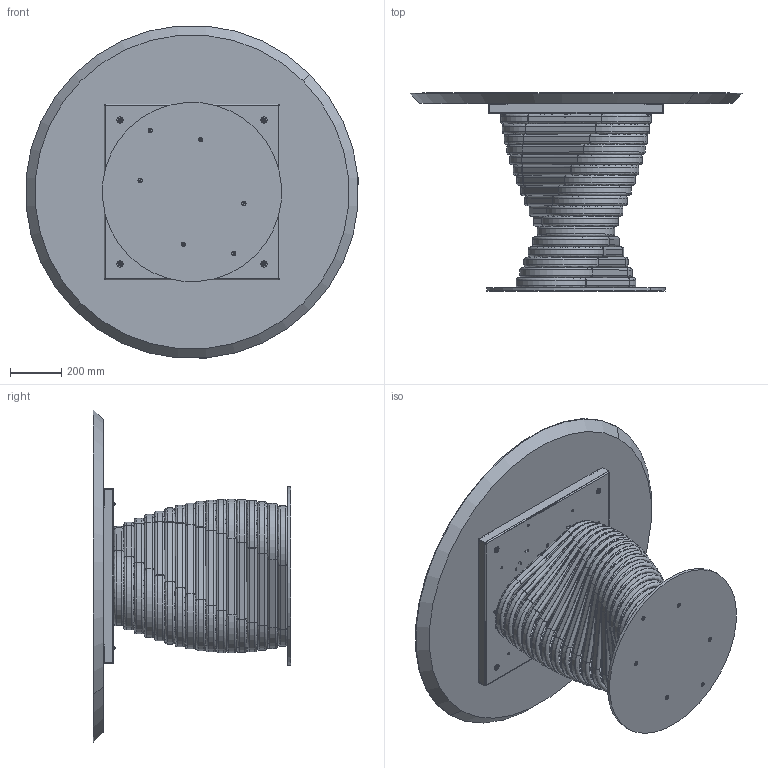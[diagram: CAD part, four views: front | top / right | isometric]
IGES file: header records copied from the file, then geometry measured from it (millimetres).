
Start section: SolidWorks IGES file using analytic representation for surfaces
Global section: file name: Y:\eforma\TECNICO\SOLIDWORKS\E-FORMA\1-TAVOLI\ROTOLO\02 parts\RO05W.IGS; native system: SolidWorks 2022; preprocessor: SolidWorks 2022; author: eforma.tech; date: 240807.150821; units: millimetre
Bounding box: 1295.05 x 772 x 1295.05 mm (x, y, z)
Volume: 62156844.2 mm3; surface area: 9614496.1 mm2
Topology: 97 solids, 97 shells, 1790 faces, 4364 edges, 2740 vertices
Faces by surface type: revolution 1048, plane 742
